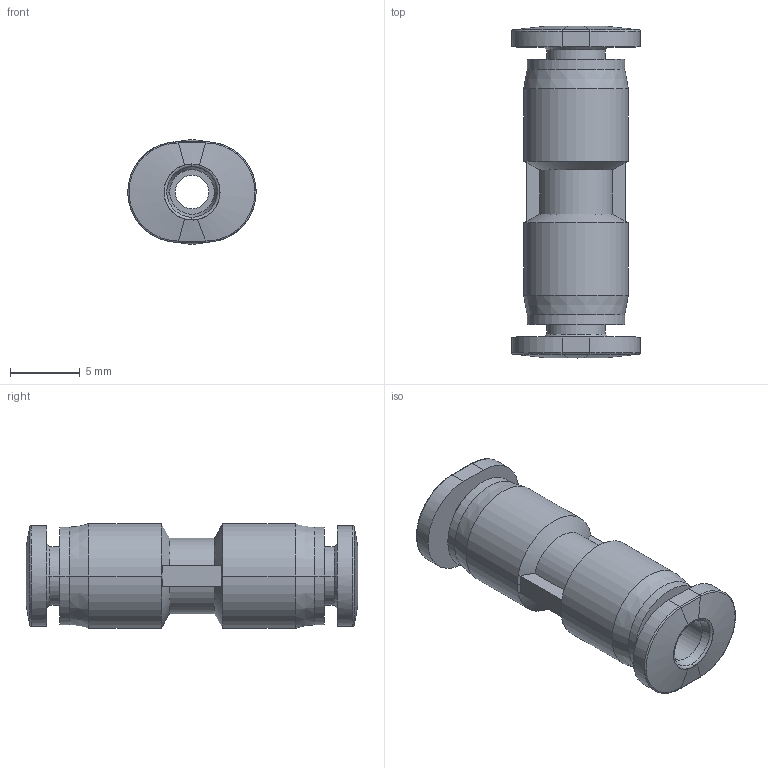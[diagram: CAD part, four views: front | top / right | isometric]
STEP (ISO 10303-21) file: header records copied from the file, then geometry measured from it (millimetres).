
FILE_DESCRIPTION (( 'STEP AP203' ), '1' );
FILE_NAME ('FMH03-00.STEP', '2020-07-07T10:52:32', ( '' ), ( '' ), 'SwSTEP 2.0', 'SolidWorks 2019', '' );
FILE_SCHEMA (( 'CONFIG_CONTROL_DESIGN' ));
Length unit declared in the file: millimetre
Products named in the file (1): FMH03-00
Bounding box: 9.2 x 23.8 x 7.5 mm (x, y, z)
Volume: 739.4 mm3; surface area: 1005.1 mm2
Topology: 1 solids, 1 shells, 86 faces, 198 edges, 120 vertices
Faces by surface type: bspline 30, cylinder 22, cone 16, plane 14, torus 4
Entity records: 4381 total; most frequent: CARTESIAN_POINT 2557, ORIENTED_EDGE 396, DIRECTION 308, EDGE_CURVE 198, AXIS2_PLACEMENT_3D 127, VERTEX_POINT 120, EDGE_LOOP 94, FACE_OUTER_BOUND 86
